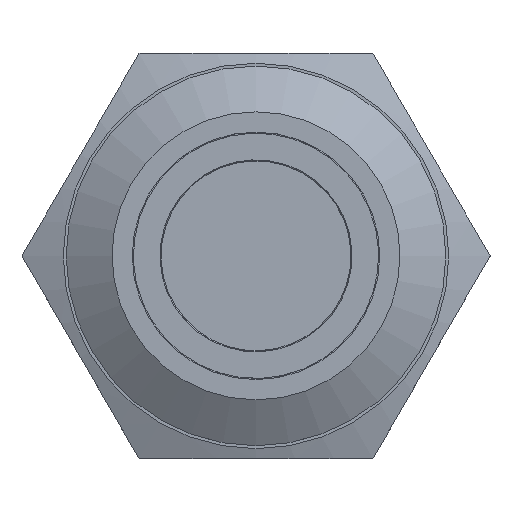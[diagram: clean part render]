
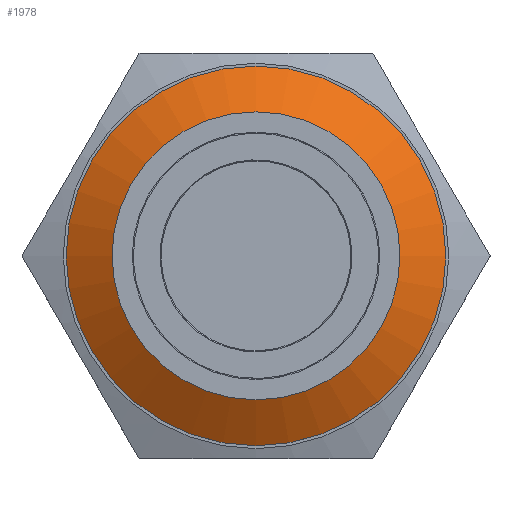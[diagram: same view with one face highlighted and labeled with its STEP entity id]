
A CAD part, top view. The second image highlights one B-rep face of the part: STEP entity #1978.
In plain terms, the highlighted conical face has half-angle 58.841 degrees and reference radius 8.9 mm.
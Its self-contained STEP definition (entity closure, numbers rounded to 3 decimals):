
#1150=CONICAL_SURFACE('',#4372,8.9,58.841);
#1978=ADVANCED_FACE('',(#2230,#2231),#1150,.T.);
#2230=FACE_BOUND('',#2333,.T.);
#2231=FACE_BOUND('',#2334,.T.);
#2333=EDGE_LOOP('',(#2596));
#2334=EDGE_LOOP('',(#2597));
#2596=ORIENTED_EDGE('',*,*,#3798,.F.);
#2597=ORIENTED_EDGE('',*,*,#3797,.F.);
#3485=VERTEX_POINT('',#5511);
#3486=VERTEX_POINT('',#5514);
#3797=EDGE_CURVE('',#3485,#3485,#4255,.T.);
#3798=EDGE_CURVE('',#3486,#3486,#4256,.T.);
#4255=CIRCLE('',#4345,8.9);
#4256=CIRCLE('',#4347,6.75);
#4345=AXIS2_PLACEMENT_3D('',#5510,#4638,#4639);
#4347=AXIS2_PLACEMENT_3D('',#5513,#4642,#4643);
#4372=AXIS2_PLACEMENT_3D('',#5816,#4693,#4694);
#4638=DIRECTION('',(0.,0.,-1.));
#4639=DIRECTION('',(-1.,0.,0.));
#4642=DIRECTION('',(0.,0.,1.));
#4643=DIRECTION('',(-1.,0.,0.));
#4693=DIRECTION('',(0.,0.,-1.));
#4694=DIRECTION('',(-1.,0.,0.));
#5510=CARTESIAN_POINT('',(0.,0.,10.));
#5511=CARTESIAN_POINT('',(-8.9,0.,10.));
#5513=CARTESIAN_POINT('',(0.,0.,11.3));
#5514=CARTESIAN_POINT('',(-6.75,0.,11.3));
#5816=CARTESIAN_POINT('',(0.,0.,10.));
